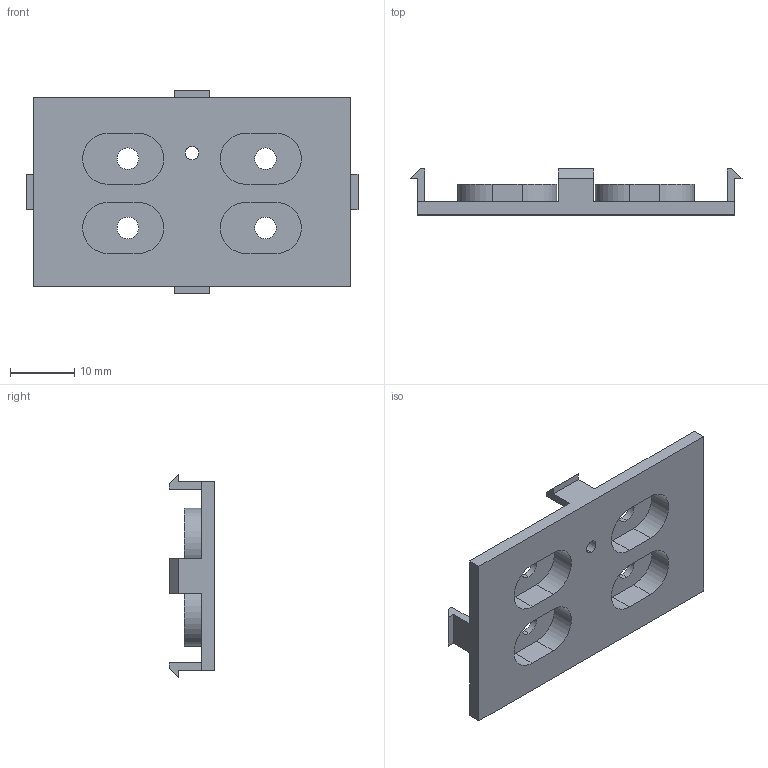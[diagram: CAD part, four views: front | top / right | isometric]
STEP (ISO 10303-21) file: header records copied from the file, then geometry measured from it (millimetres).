
FILE_DESCRIPTION (( 'STEP AP214' ), '1' );
FILE_NAME ('Tapeta Botones PP64E.STEP', '2017-09-14T07:44:22', ( 'aaa' ), ( '' ), 'SwSTEP 2.0', 'SolidWorks 2013', '' );
FILE_SCHEMA (( 'AUTOMOTIVE_DESIGN' ));
Length unit declared in the file: millimetre
Products named in the file (1): Tapeta Botones PP64E
Bounding box: 51.62 x 7.15 x 31.6 mm (x, y, z)
Volume: 3308.8 mm3; surface area: 4499.4 mm2
Topology: 1 solids, 1 shells, 83 faces, 216 edges, 144 vertices
Faces by surface type: plane 55, cylinder 26, cone 2
Entity records: 2600 total; most frequent: CARTESIAN_POINT 444, DIRECTION 440, ORIENTED_EDGE 432, EDGE_CURVE 216, LINE 160, VECTOR 160, VERTEX_POINT 144, AXIS2_PLACEMENT_3D 140
